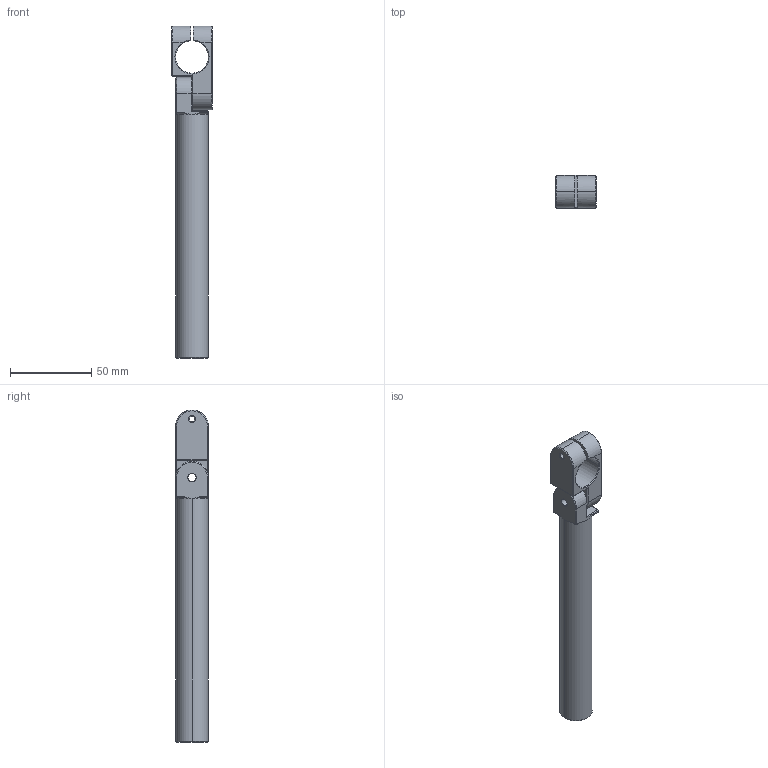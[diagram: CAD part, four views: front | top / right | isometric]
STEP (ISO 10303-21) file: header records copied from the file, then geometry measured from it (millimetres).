
FILE_DESCRIPTION (( 'STEP AP214' ), '1' );
FILE_NAME ('SEA-2020L150T.STEP', '2023-02-01T03:13:31', ( 'Windows User' ), ( 'P R C' ), 'SwSTEP 2.0', 'SolidWorks 2019', '' );
FILE_SCHEMA (( 'AUTOMOTIVE_DESIGN' ));
Length unit declared in the file: millimetre
Products named in the file (3): SEA-2020L150.1; SEA-2020L150.2; SEA-2020L150T
Assembly tree (2 placements, depth 2):
  SEA-2020L150T
    SEA-2020L150.1
    SEA-2020L150.2
Bounding box: 25 x 20 x 203.8 mm (x, y, z)
Volume: 35986.8 mm3; surface area: 23974.4 mm2
Topology: 2 solids, 2 shells, 102 faces, 244 edges, 147 vertices
Faces by surface type: plane 48, cone 29, cylinder 21, bspline 4
Entity records: 3569 total; most frequent: CARTESIAN_POINT 1066, DIRECTION 493, ORIENTED_EDGE 488, EDGE_CURVE 244, AXIS2_PLACEMENT_3D 178, VERTEX_POINT 147, VECTOR 137, LINE 137
